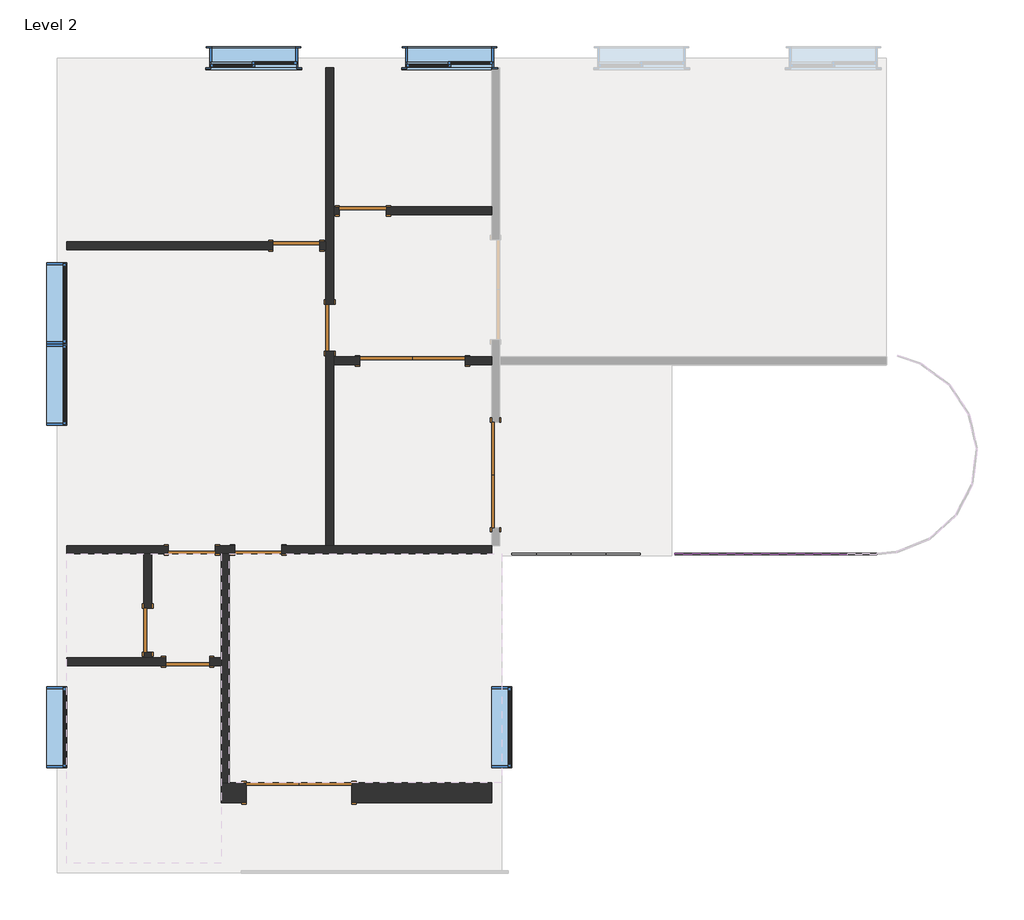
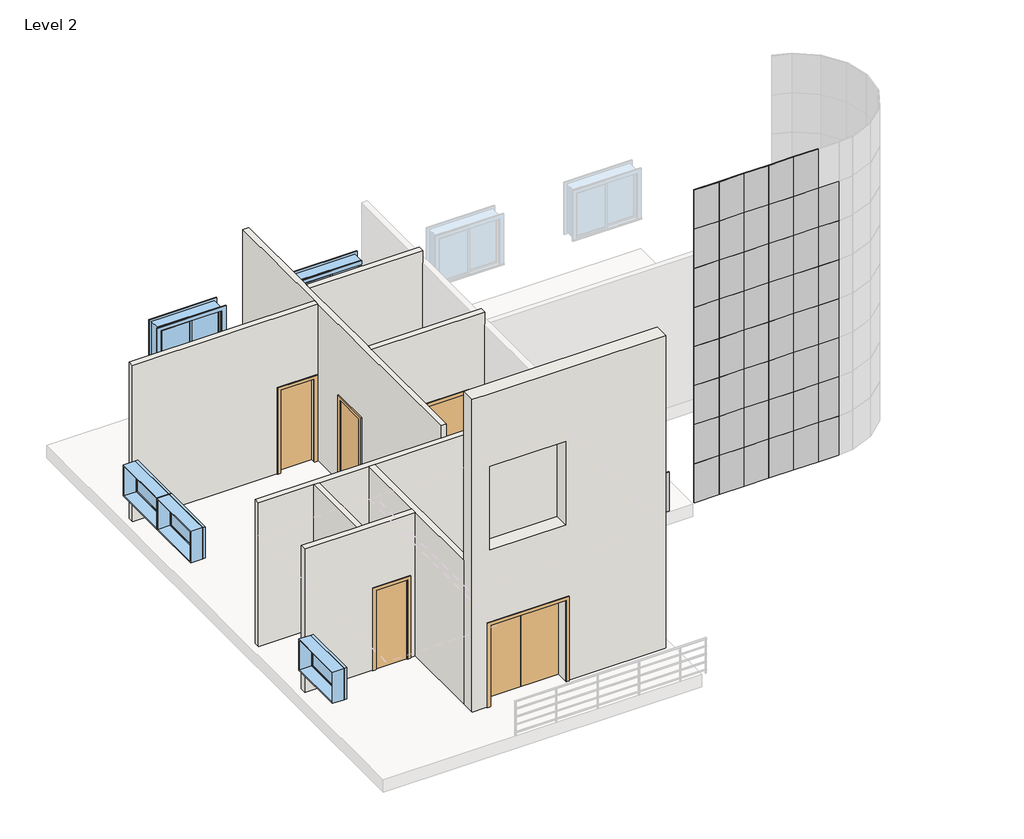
# One storey, part 1 of 2: 51 plates, 10 doors, 9 walls, 6 windows.
"""IFC4 building model written with IfcOpenShell, lengths in millimetres."""

from ifc_helpers import new_model, si_unit, frame, origin, place, context, project, spatial, polyline, outline, extrude, faceted_brep, transform, mapped, element, save
from components import m_double_flush_1830_x_2083mm_7a28c534, m_double_flush_1830_x_2083mm_6dd157be, m_single_flush_0762_x_2032mm_8f3f8d24, m_single_flush_0813_x_2134mm_bf4bb56d, m_single_flush_0813_x_2134mm_cfdfac75, system_panel_glazed_c3ce6646, system_panel_glazed_9e0dc01b, system_panel_glazed_8955cf43, m_fixed_1400_x_0800mm_a23a53e8, m_sliding_with_trim_1830_x_1220mm_f8e2f31e

model = new_model("IFC4")

# Units and contexts
model_context = context("Model", 3, world=origin())
ifc_project = project(units=[si_unit("LENGTHUNIT", "METRE", prefix="MILLI")], contexts=[model_context])

# Site, building, storey
site = spatial("IfcSite", under=ifc_project)
building = spatial("IfcBuilding", under=site)
storey = spatial("IfcBuildingStorey", under=building, Name="Level 2", Elevation=4000.0)

# Doors
placement = place(None, origin())
m_double_flush_1830_x_2083mm_shape = m_double_flush_1830_x_2083mm_7a28c534(model_context)
element("IfcDoor", 1, ObjectType="M_Double-Flush : 1830 x 2083mm", at=placement, inside=storey, context=model_context, shape_type="MappedRepresentation", body=[
    mapped(m_double_flush_1830_x_2083mm_shape, transform((251.6275179, 2658.1003657, 4000.0), x_axis=(0.0, 1.0, 0.0), y_axis=(-1.0, 0.0, 0.0), z_axis=(0.0, 0.0, 1.0))),
])
element("IfcDoor", 2, ObjectType="M_Double-Flush : 1830 x 2083mm", at=placement, inside=storey, context=model_context, shape_type="MappedRepresentation", body=[
    mapped(m_double_flush_1830_x_2083mm_shape, transform((-1186.2150999, 4630.7761065, 4000.0), x_axis=(1.0, 0.0, 0.0), y_axis=(0.0, 1.0, 0.0), z_axis=(0.0, 0.0, 1.0))),
])
m_double_flush_1830_x_2083mm_2_shape = m_double_flush_1830_x_2083mm_6dd157be(model_context)
element("IfcDoor", 3, ObjectType="M_Double-Flush : 1830 x 2083mm", at=placement, inside=storey, context=model_context, shape_type="MappedRepresentation", body=[
    mapped(m_double_flush_1830_x_2083mm_2_shape, transform((-3151.8077176, -2850.1973194, 4000.0), x_axis=(0.9999999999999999, 0.0, 0.0), y_axis=(0.0, 0.9999999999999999, 0.0), z_axis=(0.0, 0.0, 1.0))),
])
m_single_flush_0762_x_2032mm_shape = m_single_flush_0762_x_2032mm_8f3f8d24(model_context)
element("IfcDoor", 4, ObjectType="M_Single-Flush : 0762 x 2032mm", at=placement, inside=storey, context=model_context, shape_type="MappedRepresentation", body=[
    mapped(m_single_flush_0762_x_2032mm_shape, transform((-5086.3077176, -582.9473194, 4000.0), x_axis=(1.0, 0.0, 0.0), y_axis=(0.0, 1.0, 0.0), z_axis=(0.0, 0.0, 1.0))),
])
element("IfcDoor", 5, ObjectType="M_Single-Flush : 0762 x 2032mm", at=placement, inside=storey, context=model_context, shape_type="MappedRepresentation", body=[
    mapped(m_single_flush_0762_x_2032mm_shape, transform((-5774.5577176, -32.6973194, 4000.0), x_axis=(0.0, -1.0, 0.0), y_axis=(1.0, 0.0, 0.0), z_axis=(0.0, 0.0, 1.0))),
])
m_single_flush_0813_x_2134mm_shape = m_single_flush_0813_x_2134mm_bf4bb56d(model_context)
element("IfcDoor", 6, ObjectType="M_Single-Flush : 0813 x 2134mm", at=placement, inside=storey, context=model_context, shape_type="MappedRepresentation", body=[
    mapped(m_single_flush_0813_x_2134mm_shape, transform((-5011.8077176, 1355.5526806, 4000.0), x_axis=(1.0, 0.0, 0.0), y_axis=(0.0, 1.0, 0.0), z_axis=(0.0, 0.0, 1.0))),
])
element("IfcDoor", 7, ObjectType="M_Single-Flush : 0813 x 2134mm", at=placement, inside=storey, context=model_context, shape_type="MappedRepresentation", body=[
    mapped(m_single_flush_0813_x_2134mm_shape, transform((-2048.3077176, 7230.7761065, 4000.0), x_axis=(-1.0, 0.0, 0.0), y_axis=(0.0, -1.0, 0.0), z_axis=(0.0, 0.0, 1.0))),
])
element("IfcDoor", 8, ObjectType="M_Single-Flush : 0813 x 2134mm", at=placement, inside=storey, context=model_context, shape_type="MappedRepresentation", body=[
    mapped(m_single_flush_0813_x_2134mm_shape, transform((-2624.0577176, 5206.5261065, 4000.0), x_axis=(0.0, -1.0, 0.0), y_axis=(1.0, 0.0, 0.0), z_axis=(0.0, 0.0, 1.0))),
])
m_single_flush_0813_x_2134mm_2_shape = m_single_flush_0813_x_2134mm_cfdfac75(model_context)
element("IfcDoor", 9, ObjectType="M_Single-Flush : 0813 x 2134mm", at=placement, inside=storey, context=model_context, shape_type="MappedRepresentation", body=[
    mapped(m_single_flush_0813_x_2134mm_2_shape, transform((-3860.3077176, 1355.5526806, 4000.0), x_axis=(-1.0, 0.0, 0.0), y_axis=(0.0, -1.0, 0.0), z_axis=(0.0, 0.0, 1.0))),
])
element("IfcDoor", 10, ObjectType="M_Single-Flush : 0813 x 2134mm", at=placement, inside=storey, context=model_context, shape_type="MappedRepresentation", body=[
    mapped(m_single_flush_0813_x_2134mm_2_shape, transform((-3199.8077176, 6630.7761065, 4000.0), x_axis=(1.0, 0.0, 0.0), y_axis=(0.0, 1.0, 0.0), z_axis=(0.0, 0.0, 1.0))),
])

# Plates
system_panel_glazed_shape = system_panel_glazed_c3ce6646(model_context)
element("IfcPlate", 11, ObjectType="System Panel : Glazed", at=placement, inside=storey, context=model_context, shape_type="MappedRepresentation", body=[
    mapped(system_panel_glazed_shape, transform((1257.3775179, 1249.8026806, 4000.0), x_axis=(1.0, 0.0, 0.0), y_axis=(0.0, 1.0, 0.0), z_axis=(0.0, 0.0, 1.0))),
])
element("IfcPlate", 12, ObjectType="System Panel : Glazed", at=placement, inside=storey, context=model_context, shape_type="MappedRepresentation", body=[
    mapped(system_panel_glazed_shape, transform((1857.3775179, 1249.8026806, 4000.0), x_axis=(1.0, 0.0, 0.0), y_axis=(0.0, 1.0, 0.0), z_axis=(0.0, 0.0, 1.0))),
])
element("IfcPlate", 13, ObjectType="System Panel : Glazed", at=placement, inside=storey, context=model_context, shape_type="MappedRepresentation", body=[
    mapped(system_panel_glazed_shape, transform((2457.3775179, 1249.8026806, 4000.0), x_axis=(1.0, 0.0, 0.0), y_axis=(0.0, 1.0, 0.0), z_axis=(0.0, 0.0, 1.0))),
])
element("IfcPlate", 14, ObjectType="System Panel : Glazed", at=placement, inside=storey, context=model_context, shape_type="MappedRepresentation", body=[
    mapped(system_panel_glazed_shape, transform((3657.3775179, 1249.8026806, 4000.0), x_axis=(1.0, 0.0, 0.0), y_axis=(0.0, 1.0, 0.0), z_axis=(0.0, 0.0, 1.0))),
])
element("IfcPlate", 15, ObjectType="System Panel : Glazed", at=placement, inside=storey, context=model_context, shape_type="MappedRepresentation", body=[
    mapped(system_panel_glazed_shape, transform((3657.3775179, 1249.8026806, 5000.0), x_axis=(1.0, 0.0, 0.0), y_axis=(0.0, 1.0, 0.0), z_axis=(0.0, 0.0, 1.0))),
])
element("IfcPlate", 16, ObjectType="System Panel : Glazed", at=placement, inside=storey, context=model_context, shape_type="MappedRepresentation", body=[
    mapped(system_panel_glazed_shape, transform((3657.3775179, 1249.8026806, 6000.0), x_axis=(1.0, 0.0, 0.0), y_axis=(0.0, 1.0, 0.0), z_axis=(0.0, 0.0, 1.0))),
])
element("IfcPlate", 17, ObjectType="System Panel : Glazed", at=placement, inside=storey, context=model_context, shape_type="MappedRepresentation", body=[
    mapped(system_panel_glazed_shape, transform((3657.3775179, 1249.8026806, 7000.0), x_axis=(1.0, 0.0, 0.0), y_axis=(0.0, 1.0, 0.0), z_axis=(0.0, 0.0, 1.0))),
])
element("IfcPlate", 18, ObjectType="System Panel : Glazed", at=placement, inside=storey, context=model_context, shape_type="MappedRepresentation", body=[
    mapped(system_panel_glazed_shape, transform((3657.3775179, 1249.8026806, 8000.0), x_axis=(1.0, 0.0, 0.0), y_axis=(0.0, 1.0, 0.0), z_axis=(0.0, 0.0, 1.0))),
])
element("IfcPlate", 19, ObjectType="System Panel : Glazed", at=placement, inside=storey, context=model_context, shape_type="MappedRepresentation", body=[
    mapped(system_panel_glazed_shape, transform((3657.3775179, 1249.8026806, 9000.0), x_axis=(1.0, 0.0, 0.0), y_axis=(0.0, 1.0, 0.0), z_axis=(0.0, 0.0, 1.0))),
])
element("IfcPlate", 20, ObjectType="System Panel : Glazed", at=placement, inside=storey, context=model_context, shape_type="MappedRepresentation", body=[
    mapped(system_panel_glazed_shape, transform((3657.3775179, 1249.8026806, 10000.0), x_axis=(1.0, 0.0, 0.0), y_axis=(0.0, 1.0, 0.0), z_axis=(0.0, 0.0, 1.0))),
])
element("IfcPlate", 21, ObjectType="System Panel : Glazed", at=placement, inside=storey, context=model_context, shape_type="MappedRepresentation", body=[
    mapped(system_panel_glazed_shape, transform((3657.3775179, 1249.8026806, 11000.0), x_axis=(1.0, 0.0, 0.0), y_axis=(0.0, 1.0, 0.0), z_axis=(0.0, 0.0, 1.0))),
])
element("IfcPlate", 22, ObjectType="System Panel : Glazed", at=placement, inside=storey, context=model_context, shape_type="MappedRepresentation", body=[
    mapped(system_panel_glazed_shape, transform((4257.3775179, 1249.8026806, 4000.0), x_axis=(1.0, 0.0, 0.0), y_axis=(0.0, 1.0, 0.0), z_axis=(0.0, 0.0, 1.0))),
])
element("IfcPlate", 23, ObjectType="System Panel : Glazed", at=placement, inside=storey, context=model_context, shape_type="MappedRepresentation", body=[
    mapped(system_panel_glazed_shape, transform((4257.3775179, 1249.8026806, 5000.0), x_axis=(1.0, 0.0, 0.0), y_axis=(0.0, 1.0, 0.0), z_axis=(0.0, 0.0, 1.0))),
])
element("IfcPlate", 24, ObjectType="System Panel : Glazed", at=placement, inside=storey, context=model_context, shape_type="MappedRepresentation", body=[
    mapped(system_panel_glazed_shape, transform((4257.3775179, 1249.8026806, 6000.0), x_axis=(1.0, 0.0, 0.0), y_axis=(0.0, 1.0, 0.0), z_axis=(0.0, 0.0, 1.0))),
])
element("IfcPlate", 25, ObjectType="System Panel : Glazed", at=placement, inside=storey, context=model_context, shape_type="MappedRepresentation", body=[
    mapped(system_panel_glazed_shape, transform((4257.3775179, 1249.8026806, 7000.0), x_axis=(1.0, 0.0, 0.0), y_axis=(0.0, 1.0, 0.0), z_axis=(0.0, 0.0, 1.0))),
])
element("IfcPlate", 26, ObjectType="System Panel : Glazed", at=placement, inside=storey, context=model_context, shape_type="MappedRepresentation", body=[
    mapped(system_panel_glazed_shape, transform((4257.3775179, 1249.8026806, 8000.0), x_axis=(1.0, 0.0, 0.0), y_axis=(0.0, 1.0, 0.0), z_axis=(0.0, 0.0, 1.0))),
])
element("IfcPlate", 27, ObjectType="System Panel : Glazed", at=placement, inside=storey, context=model_context, shape_type="MappedRepresentation", body=[
    mapped(system_panel_glazed_shape, transform((4257.3775179, 1249.8026806, 9000.0), x_axis=(1.0, 0.0, 0.0), y_axis=(0.0, 1.0, 0.0), z_axis=(0.0, 0.0, 1.0))),
])
element("IfcPlate", 28, ObjectType="System Panel : Glazed", at=placement, inside=storey, context=model_context, shape_type="MappedRepresentation", body=[
    mapped(system_panel_glazed_shape, transform((4257.3775179, 1249.8026806, 10000.0), x_axis=(1.0, 0.0, 0.0), y_axis=(0.0, 1.0, 0.0), z_axis=(0.0, 0.0, 1.0))),
])
element("IfcPlate", 29, ObjectType="System Panel : Glazed", at=placement, inside=storey, context=model_context, shape_type="MappedRepresentation", body=[
    mapped(system_panel_glazed_shape, transform((4257.3775179, 1249.8026806, 11000.0), x_axis=(1.0, 0.0, 0.0), y_axis=(0.0, 1.0, 0.0), z_axis=(0.0, 0.0, 1.0))),
])
element("IfcPlate", 30, ObjectType="System Panel : Glazed", at=placement, inside=storey, context=model_context, shape_type="MappedRepresentation", body=[
    mapped(system_panel_glazed_shape, transform((4857.3775179, 1249.8026806, 4000.0), x_axis=(1.0, 0.0, 0.0), y_axis=(0.0, 1.0, 0.0), z_axis=(0.0, 0.0, 1.0))),
])
element("IfcPlate", 31, ObjectType="System Panel : Glazed", at=placement, inside=storey, context=model_context, shape_type="MappedRepresentation", body=[
    mapped(system_panel_glazed_shape, transform((4857.3775179, 1249.8026806, 5000.0), x_axis=(1.0, 0.0, 0.0), y_axis=(0.0, 1.0, 0.0), z_axis=(0.0, 0.0, 1.0))),
])
element("IfcPlate", 32, ObjectType="System Panel : Glazed", at=placement, inside=storey, context=model_context, shape_type="MappedRepresentation", body=[
    mapped(system_panel_glazed_shape, transform((4857.3775179, 1249.8026806, 6000.0), x_axis=(1.0, 0.0, 0.0), y_axis=(0.0, 1.0, 0.0), z_axis=(0.0, 0.0, 1.0))),
])
element("IfcPlate", 33, ObjectType="System Panel : Glazed", at=placement, inside=storey, context=model_context, shape_type="MappedRepresentation", body=[
    mapped(system_panel_glazed_shape, transform((4857.3775179, 1249.8026806, 7000.0), x_axis=(1.0, 0.0, 0.0), y_axis=(0.0, 1.0, 0.0), z_axis=(0.0, 0.0, 1.0))),
])
element("IfcPlate", 34, ObjectType="System Panel : Glazed", at=placement, inside=storey, context=model_context, shape_type="MappedRepresentation", body=[
    mapped(system_panel_glazed_shape, transform((4857.3775179, 1249.8026806, 8000.0), x_axis=(1.0, 0.0, 0.0), y_axis=(0.0, 1.0, 0.0), z_axis=(0.0, 0.0, 1.0))),
])
element("IfcPlate", 35, ObjectType="System Panel : Glazed", at=placement, inside=storey, context=model_context, shape_type="MappedRepresentation", body=[
    mapped(system_panel_glazed_shape, transform((4857.3775179, 1249.8026806, 9000.0), x_axis=(1.0, 0.0, 0.0), y_axis=(0.0, 1.0, 0.0), z_axis=(0.0, 0.0, 1.0))),
])
element("IfcPlate", 36, ObjectType="System Panel : Glazed", at=placement, inside=storey, context=model_context, shape_type="MappedRepresentation", body=[
    mapped(system_panel_glazed_shape, transform((4857.3775179, 1249.8026806, 10000.0), x_axis=(1.0, 0.0, 0.0), y_axis=(0.0, 1.0, 0.0), z_axis=(0.0, 0.0, 1.0))),
])
element("IfcPlate", 37, ObjectType="System Panel : Glazed", at=placement, inside=storey, context=model_context, shape_type="MappedRepresentation", body=[
    mapped(system_panel_glazed_shape, transform((4857.3775179, 1249.8026806, 11000.0), x_axis=(1.0, 0.0, 0.0), y_axis=(0.0, 1.0, 0.0), z_axis=(0.0, 0.0, 1.0))),
])
element("IfcPlate", 38, ObjectType="System Panel : Glazed", at=placement, inside=storey, context=model_context, shape_type="MappedRepresentation", body=[
    mapped(system_panel_glazed_shape, transform((5457.3775179, 1249.8026806, 4000.0), x_axis=(1.0, 0.0, 0.0), y_axis=(0.0, 1.0, 0.0), z_axis=(0.0, 0.0, 1.0))),
])
element("IfcPlate", 39, ObjectType="System Panel : Glazed", at=placement, inside=storey, context=model_context, shape_type="MappedRepresentation", body=[
    mapped(system_panel_glazed_shape, transform((5457.3775179, 1249.8026806, 5000.0), x_axis=(1.0, 0.0, 0.0), y_axis=(0.0, 1.0, 0.0), z_axis=(0.0, 0.0, 1.0))),
])
element("IfcPlate", 40, ObjectType="System Panel : Glazed", at=placement, inside=storey, context=model_context, shape_type="MappedRepresentation", body=[
    mapped(system_panel_glazed_shape, transform((5457.3775179, 1249.8026806, 6000.0), x_axis=(1.0, 0.0, 0.0), y_axis=(0.0, 1.0, 0.0), z_axis=(0.0, 0.0, 1.0))),
])
element("IfcPlate", 41, ObjectType="System Panel : Glazed", at=placement, inside=storey, context=model_context, shape_type="MappedRepresentation", body=[
    mapped(system_panel_glazed_shape, transform((5457.3775179, 1249.8026806, 7000.0), x_axis=(1.0, 0.0, 0.0), y_axis=(0.0, 1.0, 0.0), z_axis=(0.0, 0.0, 1.0))),
])
element("IfcPlate", 42, ObjectType="System Panel : Glazed", at=placement, inside=storey, context=model_context, shape_type="MappedRepresentation", body=[
    mapped(system_panel_glazed_shape, transform((5457.3775179, 1249.8026806, 8000.0), x_axis=(1.0, 0.0, 0.0), y_axis=(0.0, 1.0, 0.0), z_axis=(0.0, 0.0, 1.0))),
])
element("IfcPlate", 43, ObjectType="System Panel : Glazed", at=placement, inside=storey, context=model_context, shape_type="MappedRepresentation", body=[
    mapped(system_panel_glazed_shape, transform((5457.3775179, 1249.8026806, 9000.0), x_axis=(1.0, 0.0, 0.0), y_axis=(0.0, 1.0, 0.0), z_axis=(0.0, 0.0, 1.0))),
])
element("IfcPlate", 44, ObjectType="System Panel : Glazed", at=placement, inside=storey, context=model_context, shape_type="MappedRepresentation", body=[
    mapped(system_panel_glazed_shape, transform((5457.3775179, 1249.8026806, 10000.0), x_axis=(1.0, 0.0, 0.0), y_axis=(0.0, 1.0, 0.0), z_axis=(0.0, 0.0, 1.0))),
])
element("IfcPlate", 45, ObjectType="System Panel : Glazed", at=placement, inside=storey, context=model_context, shape_type="MappedRepresentation", body=[
    mapped(system_panel_glazed_shape, transform((5457.3775179, 1249.8026806, 11000.0), x_axis=(1.0, 0.0, 0.0), y_axis=(0.0, 1.0, 0.0), z_axis=(0.0, 0.0, 1.0))),
])
element("IfcPlate", 46, ObjectType="System Panel : Glazed", at=placement, inside=storey, context=model_context, shape_type="MappedRepresentation", body=[
    mapped(system_panel_glazed_shape, transform((6057.3775179, 1249.8026806, 4000.0), x_axis=(1.0, 0.0, 0.0), y_axis=(0.0, 1.0, 0.0), z_axis=(0.0, 0.0, 1.0))),
])
element("IfcPlate", 47, ObjectType="System Panel : Glazed", at=placement, inside=storey, context=model_context, shape_type="MappedRepresentation", body=[
    mapped(system_panel_glazed_shape, transform((6057.3775179, 1249.8026806, 5000.0), x_axis=(1.0, 0.0, 0.0), y_axis=(0.0, 1.0, 0.0), z_axis=(0.0, 0.0, 1.0))),
])
element("IfcPlate", 48, ObjectType="System Panel : Glazed", at=placement, inside=storey, context=model_context, shape_type="MappedRepresentation", body=[
    mapped(system_panel_glazed_shape, transform((6057.3775179, 1249.8026806, 6000.0), x_axis=(1.0, 0.0, 0.0), y_axis=(0.0, 1.0, 0.0), z_axis=(0.0, 0.0, 1.0))),
])
element("IfcPlate", 49, ObjectType="System Panel : Glazed", at=placement, inside=storey, context=model_context, shape_type="MappedRepresentation", body=[
    mapped(system_panel_glazed_shape, transform((6057.3775179, 1249.8026806, 7000.0), x_axis=(1.0, 0.0, 0.0), y_axis=(0.0, 1.0, 0.0), z_axis=(0.0, 0.0, 1.0))),
])
element("IfcPlate", 50, ObjectType="System Panel : Glazed", at=placement, inside=storey, context=model_context, shape_type="MappedRepresentation", body=[
    mapped(system_panel_glazed_shape, transform((6057.3775179, 1249.8026806, 8000.0), x_axis=(1.0, 0.0, 0.0), y_axis=(0.0, 1.0, 0.0), z_axis=(0.0, 0.0, 1.0))),
])
element("IfcPlate", 51, ObjectType="System Panel : Glazed", at=placement, inside=storey, context=model_context, shape_type="MappedRepresentation", body=[
    mapped(system_panel_glazed_shape, transform((6057.3775179, 1249.8026806, 9000.0), x_axis=(1.0, 0.0, 0.0), y_axis=(0.0, 1.0, 0.0), z_axis=(0.0, 0.0, 1.0))),
])
element("IfcPlate", 52, ObjectType="System Panel : Glazed", at=placement, inside=storey, context=model_context, shape_type="MappedRepresentation", body=[
    mapped(system_panel_glazed_shape, transform((6057.3775179, 1249.8026806, 10000.0), x_axis=(1.0, 0.0, 0.0), y_axis=(0.0, 1.0, 0.0), z_axis=(0.0, 0.0, 1.0))),
])
element("IfcPlate", 53, ObjectType="System Panel : Glazed", at=placement, inside=storey, context=model_context, shape_type="MappedRepresentation", body=[
    mapped(system_panel_glazed_shape, transform((6057.3775179, 1249.8026806, 11000.0), x_axis=(1.0, 0.0, 0.0), y_axis=(0.0, 1.0, 0.0), z_axis=(0.0, 0.0, 1.0))),
])
system_panel_glazed_2_shape = system_panel_glazed_9e0dc01b(model_context)
element("IfcPlate", 54, ObjectType="System Panel : Glazed", at=placement, inside=storey, context=model_context, shape_type="MappedRepresentation", body=[
    mapped(system_panel_glazed_2_shape, transform((744.8775179, 1249.8026806, 4000.0), x_axis=(1.0, 0.0, 0.0), y_axis=(0.0, 1.0, 0.0), z_axis=(0.0, 0.0, 1.0))),
])
system_panel_glazed_3_shape = system_panel_glazed_8955cf43(model_context)
element("IfcPlate", 55, ObjectType="System Panel : Glazed", at=placement, inside=storey, context=model_context, shape_type="MappedRepresentation", body=[
    mapped(system_panel_glazed_3_shape, transform((6608.1852814, 1249.8026806, 4000.0), x_axis=(1.0, 0.0, 0.0), y_axis=(0.0, 1.0, 0.0), z_axis=(0.0, 0.0, 1.0))),
])
element("IfcPlate", 56, ObjectType="System Panel : Glazed", at=placement, inside=storey, context=model_context, shape_type="MappedRepresentation", body=[
    mapped(system_panel_glazed_3_shape, transform((6608.1852814, 1249.8026806, 5000.0), x_axis=(1.0, 0.0, 0.0), y_axis=(0.0, 1.0, 0.0), z_axis=(0.0, 0.0, 1.0))),
])
element("IfcPlate", 57, ObjectType="System Panel : Glazed", at=placement, inside=storey, context=model_context, shape_type="MappedRepresentation", body=[
    mapped(system_panel_glazed_3_shape, transform((6608.1852814, 1249.8026806, 6000.0), x_axis=(1.0, 0.0, 0.0), y_axis=(0.0, 1.0, 0.0), z_axis=(0.0, 0.0, 1.0))),
])
element("IfcPlate", 58, ObjectType="System Panel : Glazed", at=placement, inside=storey, context=model_context, shape_type="MappedRepresentation", body=[
    mapped(system_panel_glazed_3_shape, transform((6608.1852814, 1249.8026806, 7000.0), x_axis=(1.0, 0.0, 0.0), y_axis=(0.0, 1.0, 0.0), z_axis=(0.0, 0.0, 1.0))),
])
element("IfcPlate", 59, ObjectType="System Panel : Glazed", at=placement, inside=storey, context=model_context, shape_type="MappedRepresentation", body=[
    mapped(system_panel_glazed_3_shape, transform((6608.1852814, 1249.8026806, 8000.0), x_axis=(1.0, 0.0, 0.0), y_axis=(0.0, 1.0, 0.0), z_axis=(0.0, 0.0, 1.0))),
])
element("IfcPlate", 60, ObjectType="System Panel : Glazed", at=placement, inside=storey, context=model_context, shape_type="MappedRepresentation", body=[
    mapped(system_panel_glazed_3_shape, transform((6608.1852814, 1249.8026806, 9000.0), x_axis=(1.0, 0.0, 0.0), y_axis=(0.0, 1.0, 0.0), z_axis=(0.0, 0.0, 1.0))),
])
element("IfcPlate", 61, ObjectType="System Panel : Glazed", at=placement, inside=storey, context=model_context, shape_type="MappedRepresentation", body=[
    mapped(system_panel_glazed_3_shape, transform((6608.1852814, 1249.8026806, 10000.0), x_axis=(1.0, 0.0, 0.0), y_axis=(0.0, 1.0, 0.0), z_axis=(0.0, 0.0, 1.0))),
])

# Walls
element("IfcWall", 62, ObjectType="Exterior - Brick on Mtl. Stud", at=placement, inside=storey, context=model_context, shape_type="Brep", body=[
    faceted_brep([(-2236.8077176, -3025.1973194, 6083.0), (-2236.8077176, -3025.1973194, 4000.0), (182.3775179, -3025.1973194, 4000.0), (182.3775179, -3025.1973194, 12000.0), (-4155.3077176, -3025.1973194, 12000.0), (-4505.3077176, -3025.1973194, 12000.0), (-4505.3077176, -3025.1973194, 4000.0), (-4155.3077176, -3025.1973194, 4000.0), (-4066.8077176, -3025.1973194, 4000.0), (-4066.8077176, -3025.1973194, 6083.0), (-2236.8077176, -3025.1973194, 8000.0), (-4066.8077176, -3025.1973194, 8000.0), (-4066.8077176, -3025.1973194, 10134.0), (-2236.8077176, -3025.1973194, 10134.0), (182.3775179, -2675.1973194, 4000.0), (-2236.8077176, -2675.1973194, 4000.0), (-2236.8077176, -2675.1973194, 6083.0), (-4066.8077176, -2675.1973194, 6083.0), (-4066.8077176, -2675.1973194, 4000.0), (-4155.3077176, -2675.1973194, 4000.0), (-4505.3077176, -2675.1973194, 4000.0), (-4505.3077176, -2675.1973194, 7680.0), (-4505.3077176, -2675.1973194, 8000.0), (-4505.3077176, -2675.1973194, 12000.0), (-4366.8077176, -2675.1973194, 12000.0), (182.3775179, -2675.1973194, 12000.0), (-2236.8077176, -2675.1973194, 8000.0), (-2236.8077176, -2675.1973194, 10134.0), (-4066.8077176, -2675.1973194, 10134.0), (-4066.8077176, -2675.1973194, 8000.0)], [[[0, 1, 2, 3, 4, 5, 6, 7, 8, 9], [10, 11, 12, 13]], [[14, 15, 16, 17, 18, 19, 20, 21, 22, 23, 24, 25], [26, 27, 28, 29]], [[2, 1, 15, 14]], [[8, 7, 6, 20, 19, 18]], [[5, 4, 3, 25, 24, 23]], [[5, 23, 22, 21, 20, 6]], [[3, 2, 14, 25]], [[16, 15, 1, 0]], [[17, 16, 0, 9]], [[18, 17, 9, 8]], [[27, 26, 10, 13]], [[28, 27, 13, 12]], [[29, 28, 12, 11]], [[26, 29, 11, 10]]]),
])
element("IfcWall", 63, ObjectType="Interior - 138mm Partition (1-hr)", at=placement, inside=storey, context=model_context, shape_type="Brep", body=[
    faceted_brep([(-4266.8077176, 1424.8026806, 6134.0), (-4266.8077176, 1424.8026806, 4000.0), (-4605.3077176, 1424.8026806, 4000.0), (-4605.3077176, 1424.8026806, 6134.0), (-5418.3077176, 1424.8026806, 6134.0), (-5418.3077176, 1424.8026806, 4000.0), (-7180.3077176, 1424.8026806, 4000.0), (-7180.3077176, 1424.8026806, 7680.0), (182.3775179, 1424.8026806, 7680.0), (182.3775179, 1424.8026806, 4000.0), (-3453.8077176, 1424.8026806, 4000.0), (-3453.8077176, 1424.8026806, 6134.0), (-4605.3077176, 1286.3026806, 4000.0), (-4505.3077176, 1286.3026806, 4000.0), (-4366.8077176, 1286.3026806, 4000.0), (-4266.8077176, 1286.3026806, 4000.0), (-4266.8077176, 1286.3026806, 6134.0), (-3453.8077176, 1286.3026806, 6134.0), (-3453.8077176, 1286.3026806, 4000.0), (182.3775179, 1286.3026806, 4000.0), (182.3775179, 1286.3026806, 7680.0), (-4366.8077176, 1286.3026806, 7680.0), (-4505.3077176, 1286.3026806, 7680.0), (-5705.3077176, 1286.3026806, 7680.0), (-5843.8077176, 1286.3026806, 7680.0), (-7180.3077176, 1286.3026806, 7680.0), (-7180.3077176, 1286.3026806, 4000.0), (-5843.8077176, 1286.3026806, 4000.0), (-5705.3077176, 1286.3026806, 4000.0), (-5418.3077176, 1286.3026806, 4000.0), (-5418.3077176, 1286.3026806, 6134.0), (-4605.3077176, 1286.3026806, 6134.0)], [[[0, 1, 2, 3, 4, 5, 6, 7, 8, 9, 10, 11]], [[12, 13, 14, 15, 16, 17, 18, 19, 20, 21, 22, 23, 24, 25, 26, 27, 28, 29, 30, 31]], [[2, 1, 15, 14, 13, 12]], [[29, 28, 27, 26, 6, 5]], [[10, 9, 19, 18]], [[7, 6, 26, 25]], [[9, 8, 20, 19]], [[8, 7, 25, 24, 23, 22, 21, 20]], [[3, 2, 12, 31]], [[4, 3, 31, 30]], [[5, 4, 30, 29]], [[16, 15, 1, 0]], [[17, 16, 0, 11]], [[18, 17, 11, 10]]]),
])
element("IfcWall", 64, ObjectType="Interior - 138mm Partition (1-hr)", at=placement, inside=storey, context=model_context, shape_type="Brep", body=[
    faceted_brep([(-4505.3077176, 1286.3026806, 4000.0), (-4505.3077176, -513.6973194, 4000.0), (-4505.3077176, -652.1973194, 4000.0), (-4505.3077176, -2675.1973194, 4000.0), (-4505.3077176, -2675.1973194, 7680.0), (-4505.3077176, -652.1973194, 7680.0), (-4505.3077176, -513.6973194, 7680.0), (-4505.3077176, 1286.3026806, 7680.0), (-4366.8077176, 1286.3026806, 4000.0), (-4366.8077176, 1286.3026806, 7680.0), (-4366.8077176, -2675.1973194, 7680.0), (-4366.8077176, -2675.1973194, 4000.0)], [[[0, 1, 2, 3, 4, 5, 6, 7]], [[8, 9, 10, 11]], [[3, 2, 1, 0, 8, 11]], [[0, 7, 9, 8]], [[4, 3, 11, 10]], [[7, 6, 5, 4, 10, 9]]]),
])
element("IfcWall", 65, ObjectType="Interior - 138mm Partition (1-hr)", at=placement, inside=storey, context=model_context, shape_type="Brep", body=[
    faceted_brep([(-4705.3077176, -652.1973194, 6032.0), (-4705.3077176, -652.1973194, 4000.0), (-4505.3077176, -652.1973194, 4000.0), (-4505.3077176, -652.1973194, 7680.0), (-7180.3077176, -652.1973194, 7680.0), (-7180.3077176, -652.1973194, 4000.0), (-5467.3077176, -652.1973194, 4000.0), (-5467.3077176, -652.1973194, 6032.0), (-4505.3077176, -513.6973194, 4000.0), (-4705.3077176, -513.6973194, 4000.0), (-4705.3077176, -513.6973194, 6032.0), (-5467.3077176, -513.6973194, 6032.0), (-5467.3077176, -513.6973194, 4000.0), (-5705.3077176, -513.6973194, 4000.0), (-5843.8077176, -513.6973194, 4000.0), (-7180.3077176, -513.6973194, 4000.0), (-7180.3077176, -513.6973194, 7680.0), (-5843.8077176, -513.6973194, 7680.0), (-5705.3077176, -513.6973194, 7680.0), (-4505.3077176, -513.6973194, 7680.0)], [[[0, 1, 2, 3, 4, 5, 6, 7]], [[8, 9, 10, 11, 12, 13, 14, 15, 16, 17, 18, 19]], [[2, 1, 9, 8]], [[6, 5, 15, 14, 13, 12]], [[5, 4, 16, 15]], [[3, 2, 8, 19]], [[4, 3, 19, 18, 17, 16]], [[10, 9, 1, 0]], [[11, 10, 0, 7]], [[12, 11, 7, 6]]]),
])
element("IfcWall", 66, ObjectType="Interior - 138mm Partition (1-hr)", at=placement, inside=storey, context=model_context, shape_type="SweptSolid", body=[
    extrude(outline(polyline([(-413.6973194, 6032.0), (-413.6973194, 4000.0), (-513.6973194, 4000.0), (-513.6973194, 7680.0), (1286.3026806, 7680.0), (1286.3026806, 4000.0), (348.3026806, 4000.0), (348.3026806, 6032.0), (-413.6973194, 6032.0)])), frame((-5843.8077176, 0.0, 0.0), z_axis=(1.0, 0.0, 0.0), x_axis=(0.0, 1.0, 0.0)), (0.0, 0.0, 1.0), 138.5),
])
element("IfcWall", 67, ObjectType="Interior - 138mm Partition (1-hr)", at=placement, inside=storey, context=model_context, shape_type="SweptSolid", body=[
    extrude(outline(polyline([(6134.0, -2793.3077176), (4000.0, -2793.3077176), (4000.0, -2693.3077176), (8000.0, -2693.3077176), (8000.0, -7180.3077176), (4000.0, -7180.3077176), (4000.0, -3606.3077176), (6134.0, -3606.3077176), (6134.0, -2793.3077176)])), frame((0.0, 6561.5261065, 0.0), z_axis=(0.0, 1.0, 0.0), x_axis=(0.0, 0.0, 1.0)), (0.0, 0.0, 1.0), 138.5),
])
element("IfcWall", 68, ObjectType="Interior - 138mm Partition (1-hr)", at=placement, inside=storey, context=model_context, shape_type="Brep", body=[
    faceted_brep([(-2554.8077176, 1424.8026806, 4000.0), (-2554.8077176, 4561.5261065, 4000.0), (-2554.8077176, 4700.0261065, 4000.0), (-2554.8077176, 4800.0261065, 4000.0), (-2554.8077176, 4800.0261065, 6134.0), (-2554.8077176, 5613.0261065, 6134.0), (-2554.8077176, 5613.0261065, 4000.0), (-2554.8077176, 7161.5261065, 4000.0), (-2554.8077176, 7300.0261065, 4000.0), (-2554.8077176, 9711.6003657, 4000.0), (-2554.8077176, 9711.6003657, 8000.0), (-2554.8077176, 7300.0261065, 8000.0), (-2554.8077176, 7161.5261065, 8000.0), (-2554.8077176, 4700.0261065, 8000.0), (-2554.8077176, 4561.5261065, 8000.0), (-2554.8077176, 1424.8026806, 8000.0), (-2693.3077176, 4800.0261065, 6134.0), (-2693.3077176, 4800.0261065, 4000.0), (-2693.3077176, 1424.8026806, 4000.0), (-2693.3077176, 1424.8026806, 8000.0), (-2693.3077176, 6561.5261065, 8000.0), (-2693.3077176, 6700.0261065, 8000.0), (-2693.3077176, 9711.6003657, 8000.0), (-2693.3077176, 9711.6003657, 4000.0), (-2693.3077176, 6700.0261065, 4000.0), (-2693.3077176, 6561.5261065, 4000.0), (-2693.3077176, 5613.0261065, 4000.0), (-2693.3077176, 5613.0261065, 6134.0)], [[[0, 1, 2, 3, 4, 5, 6, 7, 8, 9, 10, 11, 12, 13, 14, 15]], [[16, 17, 18, 19, 20, 21, 22, 23, 24, 25, 26, 27]], [[18, 17, 3, 2, 1, 0]], [[26, 25, 24, 23, 9, 8, 7, 6]], [[15, 14, 13, 12, 11, 10, 22, 21, 20, 19]], [[10, 9, 23, 22]], [[0, 15, 19, 18]], [[4, 3, 17, 16]], [[5, 4, 16, 27]], [[6, 5, 27, 26]]]),
])
element("IfcWall", 69, ObjectType="Interior - 138mm Partition (1-hr)", at=placement, inside=storey, context=model_context, shape_type="SweptSolid", body=[
    extrude(outline(polyline([(4000.0, -2554.8077176), (4000.0, -2454.8077176), (6134.0, -2454.8077176), (6134.0, -1641.8077176), (4000.0, -1641.8077176), (4000.0, 182.3775179), (8000.0, 182.3775179), (8000.0, -2554.8077176), (4000.0, -2554.8077176)])), frame((0.0, 7161.5261065, 0.0), z_axis=(0.0, 1.0, 0.0), x_axis=(0.0, 0.0, 1.0)), (0.0, 0.0, 1.0), 138.5),
])
element("IfcWall", 70, ObjectType="Interior - 138mm Partition (1-hr)", at=placement, inside=storey, context=model_context, shape_type="SweptSolid", body=[
    extrude(outline(polyline([(6083.0, -271.2150999), (4000.0, -271.2150999), (4000.0, 182.3775179), (8000.0, 182.3775179), (8000.0, -2554.8077176), (4000.0, -2554.8077176), (4000.0, -2101.2150999), (6083.0, -2101.2150999), (6083.0, -271.2150999)])), frame((0.0, 4561.5261065, 0.0), z_axis=(0.0, 1.0, 0.0), x_axis=(0.0, 0.0, 1.0)), (0.0, 0.0, 1.0), 138.5),
])

# Windows
m_fixed_1400_x_0800mm_shape = m_fixed_1400_x_0800mm_a23a53e8(model_context)
element("IfcWindow", 71, ObjectType="M_Fixed : 1400 x 0800mm", at=placement, inside=storey, context=model_context, shape_type="MappedRepresentation", body=[
    mapped(m_fixed_1400_x_0800mm_shape, transform((-7368.3077176, -1717.6973194, 4000.0), x_axis=(0.0, -1.0, 0.0), y_axis=(1.0, 0.0, 0.0), z_axis=(0.0, 0.0, 1.0))),
])
element("IfcWindow", 72, ObjectType="M_Fixed : 1400 x 0800mm", at=placement, inside=storey, context=model_context, shape_type="MappedRepresentation", body=[
    mapped(m_fixed_1400_x_0800mm_shape, transform((-7368.3077176, 4217.3026806, 4000.0), x_axis=(0.0, -1.0, 0.0), y_axis=(1.0, 0.0, 0.0), z_axis=(0.0, 0.0, 1.0))),
])
element("IfcWindow", 73, ObjectType="M_Fixed : 1400 x 0800mm", at=placement, inside=storey, context=model_context, shape_type="MappedRepresentation", body=[
    mapped(m_fixed_1400_x_0800mm_shape, transform((-7368.3077176, 5632.3026806, 4000.0), x_axis=(0.0, -1.0, 0.0), y_axis=(1.0, 0.0, 0.0), z_axis=(0.0, 0.0, 1.0))),
])
element("IfcWindow", 74, ObjectType="M_Fixed : 1400 x 0800mm", at=placement, inside=storey, context=model_context, shape_type="MappedRepresentation", body=[
    mapped(m_fixed_1400_x_0800mm_shape, transform((344.3775179, -1717.6973194, 4000.0), x_axis=(0.0, -1.0, 0.0), y_axis=(1.0, 0.0, 0.0), z_axis=(0.0, 0.0, 1.0))),
])
m_sliding_with_trim_1830_x_1220mm_shape = m_sliding_with_trim_1830_x_1220mm_f8e2f31e(model_context)
element("IfcWindow", 75, ObjectType="M_Sliding with Trim : 1830 x 1220mm", at=placement, inside=storey, context=model_context, shape_type="MappedRepresentation", body=[
    mapped(m_sliding_with_trim_1830_x_1220mm_shape, transform((-544.3077176, 9886.6003657, 4000.0), x_axis=(-1.0, 0.0, 0.0), y_axis=(0.0, -1.0, 0.0), z_axis=(0.0, 0.0, 1.0))),
])
element("IfcWindow", 76, ObjectType="M_Sliding with Trim : 1830 x 1220mm", at=placement, inside=storey, context=model_context, shape_type="MappedRepresentation", body=[
    mapped(m_sliding_with_trim_1830_x_1220mm_shape, transform((-3940.1577176, 9886.6003657, 4000.0), x_axis=(-1.0, 0.0, 0.0), y_axis=(0.0, -1.0, 0.0), z_axis=(0.0, 0.0, 1.0))),
])

save(model, "model.ifc")
